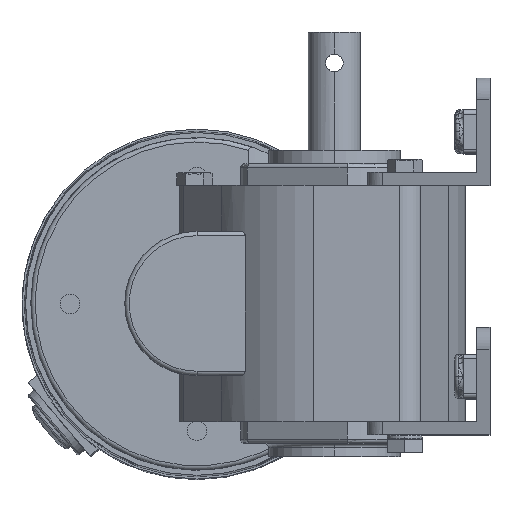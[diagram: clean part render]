
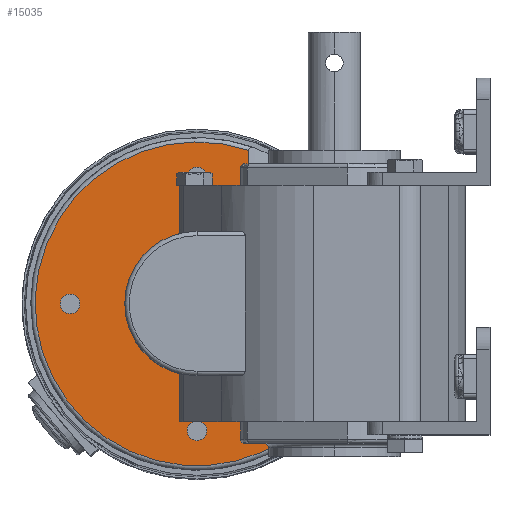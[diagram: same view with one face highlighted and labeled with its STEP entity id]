
A CAD part, top view. The second image highlights one B-rep face of the part: STEP entity #15035.
In plain terms, the highlighted planar face has unit normal (0, 0, 1).
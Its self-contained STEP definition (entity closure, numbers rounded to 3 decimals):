
#304 = CARTESIAN_POINT ( 'NONE',  ( -2.25, 29., 8. ) ) ;
#524 = CARTESIAN_POINT ( 'NONE',  ( -31.25, 0., 8. ) ) ;
#550 = VERTEX_POINT ( 'NONE', #16031 ) ;
#645 = EDGE_CURVE ( 'NONE', #20898, #8535, #10667, .T. ) ;
#755 = EDGE_CURVE ( 'NONE', #8667, #18168, #25319, .T. ) ;
#1236 = AXIS2_PLACEMENT_3D ( 'NONE', #10814, #24754, #12812 ) ;
#1323 = LINE ( 'NONE', #13204, #16546 ) ;
#2058 = ORIENTED_EDGE ( 'NONE', *, *, #5643, .F. ) ;
#2061 = VERTEX_POINT ( 'NONE', #23183 ) ;
#2249 = LINE ( 'NONE', #23706, #22191 ) ;
#2645 = AXIS2_PLACEMENT_3D ( 'NONE', #17605, #5712, #19634 ) ;
#2806 = EDGE_CURVE ( 'NONE', #8535, #17343, #16725, .T. ) ;
#2856 = CARTESIAN_POINT ( 'NONE',  ( -16.5, 0., 8. ) ) ;
#2863 = DIRECTION ( 'NONE',  ( 0., 0., 1. ) ) ;
#2907 = VERTEX_POINT ( 'NONE', #11697 ) ;
#2927 = ORIENTED_EDGE ( 'NONE', *, *, #22332, .F. ) ;
#2948 = CARTESIAN_POINT ( 'NONE',  ( 11.804, 51., 8. ) ) ;
#3074 = ORIENTED_EDGE ( 'NONE', *, *, #2806, .F. ) ;
#3083 = VERTEX_POINT ( 'NONE', #304 ) ;
#3534 = DIRECTION ( 'NONE',  ( 0., 0., 1. ) ) ;
#3576 = CIRCLE ( 'NONE', #2645, 2.25 ) ;
#3581 = ORIENTED_EDGE ( 'NONE', *, *, #645, .F. ) ;
#3675 = CARTESIAN_POINT ( 'NONE',  ( 0., 0., 8. ) ) ;
#4065 = VERTEX_POINT ( 'NONE', #5331 ) ;
#4083 = ORIENTED_EDGE ( 'NONE', *, *, #14746, .T. ) ;
#4446 = EDGE_CURVE ( 'NONE', #9822, #22474, #8247, .T. ) ;
#5325 = VERTEX_POINT ( 'NONE', #24010 ) ;
#5331 = CARTESIAN_POINT ( 'NONE',  ( 11.804, 16.5, 8. ) ) ;
#5643 = EDGE_CURVE ( 'NONE', #17343, #2907, #9864, .T. ) ;
#5672 = DIRECTION ( 'NONE',  ( 1., 0., 0. ) ) ;
#5712 = DIRECTION ( 'NONE',  ( 0., 0., 1. ) ) ;
#5908 = EDGE_LOOP ( 'NONE', ( #13051, #23147 ) ) ;
#5991 = AXIS2_PLACEMENT_3D ( 'NONE', #6844, #20772, #8825 ) ;
#6844 = CARTESIAN_POINT ( 'NONE',  ( 0., 29., 8. ) ) ;
#7628 = DIRECTION ( 'NONE',  ( 0., 0., 1. ) ) ;
#7632 = CARTESIAN_POINT ( 'NONE',  ( -29., 0., 8. ) ) ;
#7778 = CARTESIAN_POINT ( 'NONE',  ( 25.298, -27., 8. ) ) ;
#8040 = ORIENTED_EDGE ( 'NONE', *, *, #21023, .T. ) ;
#8247 = CIRCLE ( 'NONE', #25272, 2.25 ) ;
#8535 = VERTEX_POINT ( 'NONE', #2856 ) ;
#8540 = EDGE_CURVE ( 'NONE', #5325, #3083, #23449, .T. ) ;
#8667 = VERTEX_POINT ( 'NONE', #25212 ) ;
#8672 = CARTESIAN_POINT ( 'NONE',  ( 0., -16.5, 8. ) ) ;
#8825 = DIRECTION ( 'NONE',  ( 1., 0., 0. ) ) ;
#8880 = CARTESIAN_POINT ( 'NONE',  ( 0., 0., 8. ) ) ;
#9118 = ORIENTED_EDGE ( 'NONE', *, *, #755, .T. ) ;
#9621 = DIRECTION ( 'NONE',  ( 1., 0., 0. ) ) ;
#9813 = VECTOR ( 'NONE', #24410, 1000. ) ;
#9822 = VERTEX_POINT ( 'NONE', #21603 ) ;
#9864 = LINE ( 'NONE', #19287, #10470 ) ;
#10464 = CARTESIAN_POINT ( 'NONE',  ( 0., 16.5, 8. ) ) ;
#10470 = VECTOR ( 'NONE', #25295, 1000. ) ;
#10548 = DIRECTION ( 'NONE',  ( 0., 0., 1. ) ) ;
#10667 = CIRCLE ( 'NONE', #11143, 16.5 ) ;
#10814 = CARTESIAN_POINT ( 'NONE',  ( 0., -29., 8. ) ) ;
#10889 = DIRECTION ( 'NONE',  ( 1., 0., 0. ) ) ;
#10930 = FACE_OUTER_BOUND ( 'NONE', #22251, .T. ) ;
#11143 = AXIS2_PLACEMENT_3D ( 'NONE', #22494, #10548, #24491 ) ;
#11697 = CARTESIAN_POINT ( 'NONE',  ( 23.719, -16.5, 8. ) ) ;
#12400 = ORIENTED_EDGE ( 'NONE', *, *, #4446, .F. ) ;
#12801 = FACE_BOUND ( 'NONE', #18124, .T. ) ;
#12810 = CARTESIAN_POINT ( 'NONE',  ( 2.25, -29., 8. ) ) ;
#12812 = DIRECTION ( 'NONE',  ( 1., 0., 0. ) ) ;
#13051 = ORIENTED_EDGE ( 'NONE', *, *, #13684, .F. ) ;
#13204 = CARTESIAN_POINT ( 'NONE',  ( 0., -27., 8. ) ) ;
#13428 = FACE_BOUND ( 'NONE', #22953, .T. ) ;
#13684 = EDGE_CURVE ( 'NONE', #3083, #5325, #3576, .T. ) ;
#13922 = VECTOR ( 'NONE', #22878, 1000. ) ;
#14510 = VERTEX_POINT ( 'NONE', #524 ) ;
#14746 = EDGE_CURVE ( 'NONE', #550, #2907, #2249, .T. ) ;
#14750 = CARTESIAN_POINT ( 'NONE',  ( 0., -29., 8. ) ) ;
#14798 = CIRCLE ( 'NONE', #17779, 2.25 ) ;
#14976 = EDGE_CURVE ( 'NONE', #18168, #550, #1323, .T. ) ;
#15033 = CIRCLE ( 'NONE', #23817, 2.25 ) ;
#15035 = ADVANCED_FACE ( 'NONE', ( #12801, #13428, #16213, #10930 ), #21529, .T. ) ;
#15424 = CARTESIAN_POINT ( 'NONE',  ( 0., 0., 8. ) ) ;
#15668 = AXIS2_PLACEMENT_3D ( 'NONE', #3675, #17559, #5672 ) ;
#15676 = ORIENTED_EDGE ( 'NONE', *, *, #17497, .F. ) ;
#15725 = LINE ( 'NONE', #10464, #9813 ) ;
#16031 = CARTESIAN_POINT ( 'NONE',  ( 23.719, -27., 8. ) ) ;
#16213 = FACE_BOUND ( 'NONE', #5908, .T. ) ;
#16546 = VECTOR ( 'NONE', #23080, 1000. ) ;
#16725 = CIRCLE ( 'NONE', #22072, 16.5 ) ;
#16741 = DIRECTION ( 'NONE',  ( 1., 0., 0. ) ) ;
#17343 = VERTEX_POINT ( 'NONE', #8672 ) ;
#17428 = DIRECTION ( 'NONE',  ( 1., 0., 0. ) ) ;
#17497 = EDGE_CURVE ( 'NONE', #2061, #14510, #15033, .T. ) ;
#17559 = DIRECTION ( 'NONE',  ( 0., 0., 1. ) ) ;
#17605 = CARTESIAN_POINT ( 'NONE',  ( 0., 29., 8. ) ) ;
#17779 = AXIS2_PLACEMENT_3D ( 'NONE', #19566, #7628, #21581 ) ;
#18124 = EDGE_LOOP ( 'NONE', ( #12400, #21965 ) ) ;
#18168 = VERTEX_POINT ( 'NONE', #7778 ) ;
#19141 = AXIS2_PLACEMENT_3D ( 'NONE', #8880, #22834, #10889 ) ;
#19231 = LINE ( 'NONE', #2948, #13922 ) ;
#19287 = CARTESIAN_POINT ( 'NONE',  ( 0., -16.5, 8. ) ) ;
#19566 = CARTESIAN_POINT ( 'NONE',  ( -29., 0., 8. ) ) ;
#19634 = DIRECTION ( 'NONE',  ( 1., 0., 0. ) ) ;
#19701 = DIRECTION ( 'NONE',  ( 0., 1., 0. ) ) ;
#20351 = CARTESIAN_POINT ( 'NONE',  ( 0., 16.5, 8. ) ) ;
#20772 = DIRECTION ( 'NONE',  ( 0., 0., 1. ) ) ;
#20898 = VERTEX_POINT ( 'NONE', #20351 ) ;
#21023 = EDGE_CURVE ( 'NONE', #4065, #8667, #19231, .T. ) ;
#21422 = ORIENTED_EDGE ( 'NONE', *, *, #14976, .T. ) ;
#21529 = PLANE ( 'NONE',  #15668 ) ;
#21581 = DIRECTION ( 'NONE',  ( 1., 0., 0. ) ) ;
#21587 = DIRECTION ( 'NONE',  ( 0., 0., 1. ) ) ;
#21603 = CARTESIAN_POINT ( 'NONE',  ( -2.25, -29., 8. ) ) ;
#21965 = ORIENTED_EDGE ( 'NONE', *, *, #25333, .F. ) ;
#22019 = EDGE_CURVE ( 'NONE', #14510, #2061, #14798, .T. ) ;
#22072 = AXIS2_PLACEMENT_3D ( 'NONE', #15424, #3534, #17428 ) ;
#22191 = VECTOR ( 'NONE', #19701, 1000. ) ;
#22251 = EDGE_LOOP ( 'NONE', ( #8040, #9118, #21422, #4083, #2058, #3074, #3581, #2927 ) ) ;
#22332 = EDGE_CURVE ( 'NONE', #4065, #20898, #15725, .T. ) ;
#22474 = VERTEX_POINT ( 'NONE', #12810 ) ;
#22494 = CARTESIAN_POINT ( 'NONE',  ( 0., 0., 8. ) ) ;
#22736 = ORIENTED_EDGE ( 'NONE', *, *, #22019, .F. ) ;
#22834 = DIRECTION ( 'NONE',  ( 0., 0., 1. ) ) ;
#22878 = DIRECTION ( 'NONE',  ( 0., 1., 0. ) ) ;
#22953 = EDGE_LOOP ( 'NONE', ( #22736, #15676 ) ) ;
#23080 = DIRECTION ( 'NONE',  ( -1., 0., 0. ) ) ;
#23147 = ORIENTED_EDGE ( 'NONE', *, *, #8540, .F. ) ;
#23183 = CARTESIAN_POINT ( 'NONE',  ( -26.75, 0., 8. ) ) ;
#23239 = CIRCLE ( 'NONE', #1236, 2.25 ) ;
#23449 = CIRCLE ( 'NONE', #5991, 2.25 ) ;
#23706 = CARTESIAN_POINT ( 'NONE',  ( 23.719, 27., 8. ) ) ;
#23817 = AXIS2_PLACEMENT_3D ( 'NONE', #7632, #21587, #9621 ) ;
#24010 = CARTESIAN_POINT ( 'NONE',  ( 2.25, 29., 8. ) ) ;
#24410 = DIRECTION ( 'NONE',  ( -1., 0., 0. ) ) ;
#24491 = DIRECTION ( 'NONE',  ( 1., 0., 0. ) ) ;
#24754 = DIRECTION ( 'NONE',  ( 0., 0., 1. ) ) ;
#25212 = CARTESIAN_POINT ( 'NONE',  ( 11.804, 35.067, 8. ) ) ;
#25272 = AXIS2_PLACEMENT_3D ( 'NONE', #14750, #2863, #16741 ) ;
#25295 = DIRECTION ( 'NONE',  ( 1., 0., 0. ) ) ;
#25319 = CIRCLE ( 'NONE', #19141, 37. ) ;
#25333 = EDGE_CURVE ( 'NONE', #22474, #9822, #23239, .T. ) ;
